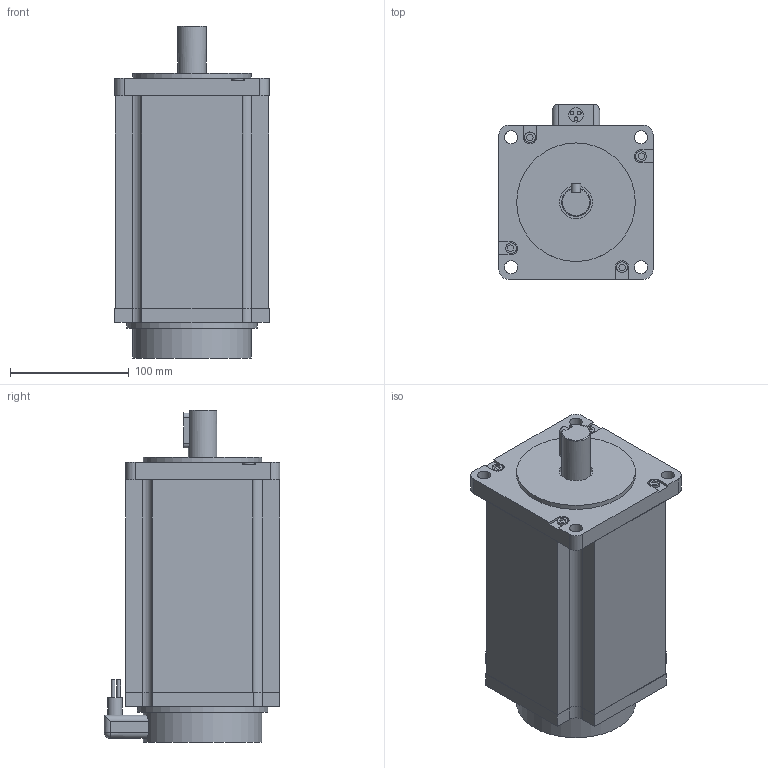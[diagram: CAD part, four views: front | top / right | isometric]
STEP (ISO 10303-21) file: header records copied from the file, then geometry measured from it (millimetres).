
FILE_DESCRIPTION(/* description */ (''),/* implementation_level */ '2;1');
FILE_NAME(/* name */ 'STC-130E68-03236.stp',/* time_stamp */ '2018-08-21T09:05:22+08:00',/* author */ (''),/* organization */ (''),/* preprocessor_version */ 'ST-DEVELOPER v11',/* originating_system */ 'SIEMENS UGS NX 6.0',/* authorisation */ '');
FILE_SCHEMA (('CONFIG_CONTROL_DESIGN'));
Length unit declared in the file: millimetre
Products named in the file (1): STC-130E68-03236
Bounding box: 130 x 148 x 280 mm (x, y, z)
Volume: 3409445.3 mm3; surface area: 160368.9 mm2
Topology: 2 solids, 3 shells, 151 faces, 375 edges, 248 vertices
Faces by surface type: plane 103, cylinder 45, sphere 2, torus 1
Full cylindrical faces by diameter (mm): 3 x3, 9 x4, 11 x4, 12 x1, 24 x1, 28 x1, 100 x2, 110 x1
Entity records: 4473 total; most frequent: CARTESIAN_POINT 825, DIRECTION 730, ORIENTED_EDGE 698, EDGE_CURVE 349, LINE 256, VECTOR 256, VERTEX_POINT 241, AXIS2_PLACEMENT_3D 237
